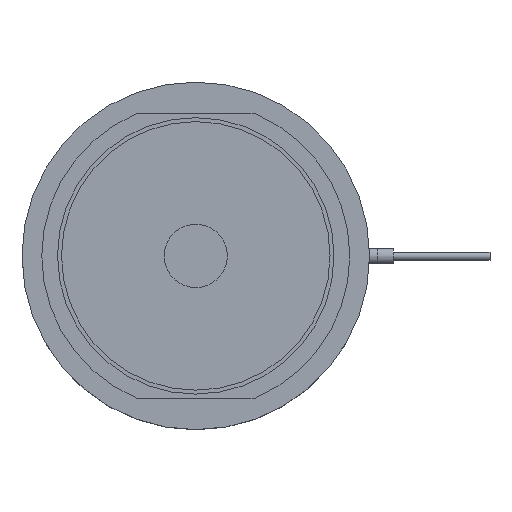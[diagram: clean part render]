
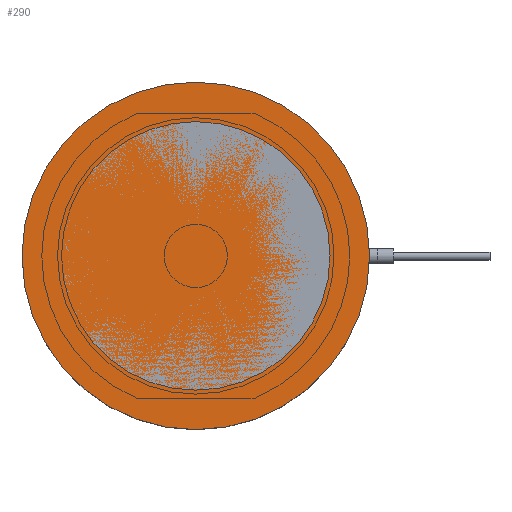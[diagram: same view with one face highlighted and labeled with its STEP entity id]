
A CAD part, top view. The second image highlights one B-rep face of the part: STEP entity #290.
In plain terms, the highlighted planar face has unit normal (0, 0, 1).
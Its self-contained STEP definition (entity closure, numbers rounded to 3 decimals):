
#196=PLANE('',#1083);
#231=FACE_OUTER_BOUND('',#473,.T.);
#290=ADVANCED_FACE('',(#231),#196,.F.);
#473=EDGE_LOOP('',(#597));
#597=ORIENTED_EDGE('',*,*,#892,.F.);
#804=VERTEX_POINT('',#1570);
#892=EDGE_CURVE('',#804,#804,#999,.T.);
#999=CIRCLE('',#1082,22.);
#1082=AXIS2_PLACEMENT_3D('',#1569,#1255,#1256);
#1083=AXIS2_PLACEMENT_3D('',#1571,#1257,#1258);
#1255=DIRECTION('',(0.,0.,-1.));
#1256=DIRECTION('',(-1.,0.,0.));
#1257=DIRECTION('',(0.,0.,-1.));
#1258=DIRECTION('',(-1.,0.,0.));
#1569=CARTESIAN_POINT('',(0.,0.,0.));
#1570=CARTESIAN_POINT('',(-22.,0.,0.));
#1571=CARTESIAN_POINT('',(0.,0.,0.));
